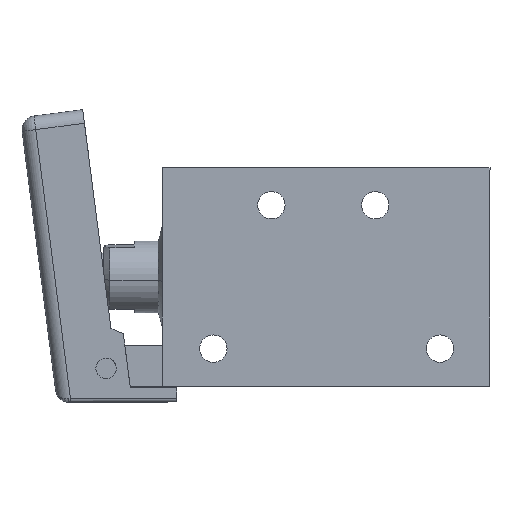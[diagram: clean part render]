
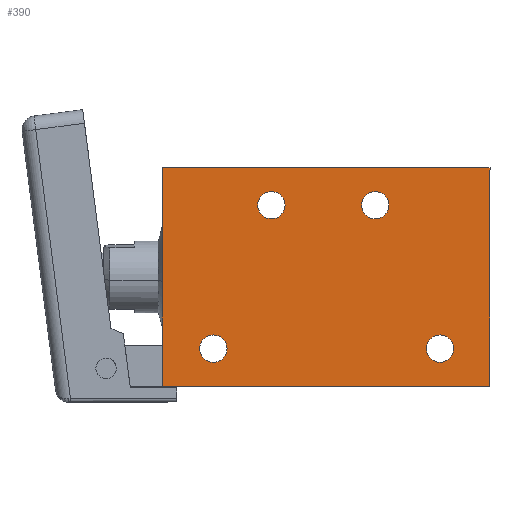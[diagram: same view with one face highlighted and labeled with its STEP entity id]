
A CAD part, left-side view. The second image highlights one B-rep face of the part: STEP entity #390.
In plain terms, the highlighted planar face has unit normal (-1, 0, 0).
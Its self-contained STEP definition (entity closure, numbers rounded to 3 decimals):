
#7 = CARTESIAN_POINT ( 'NONE',  ( 34.832, 34.209, 53.147 ) ) ;
#144 = ORIENTED_EDGE ( 'NONE', *, *, #2759, .F. ) ;
#145 = DIRECTION ( 'NONE',  ( 0., -1., 0. ) ) ;
#153 = VERTEX_POINT ( 'NONE', #2822 ) ;
#178 = AXIS2_PLACEMENT_3D ( 'NONE', #343, #285, #2251 ) ;
#201 = ORIENTED_EDGE ( 'NONE', *, *, #1446, .F. ) ;
#240 = ORIENTED_EDGE ( 'NONE', *, *, #1403, .F. ) ;
#244 = FACE_BOUND ( 'NONE', #1504, .T. ) ;
#284 = CARTESIAN_POINT ( 'NONE',  ( 34.832, 36.209, 53.147 ) ) ;
#285 = DIRECTION ( 'NONE',  ( -1., 0., 0. ) ) ;
#287 = VECTOR ( 'NONE', #145, 1000. ) ;
#292 = LINE ( 'NONE', #3564, #1120 ) ;
#318 = DIRECTION ( 'NONE',  ( -1., 0., 0. ) ) ;
#343 = CARTESIAN_POINT ( 'NONE',  ( 34.832, 26.709, 32.147 ) ) ;
#349 = EDGE_CURVE ( 'NONE', #1329, #2317, #1164, .T. ) ;
#387 = CIRCLE ( 'NONE', #2478, 2. ) ;
#390 = ADVANCED_FACE ( 'NONE', ( #244, #981, #1066, #3189, #2404 ), #738, .F. ) ;
#397 = CARTESIAN_POINT ( 'NONE',  ( 34.832, 49.409, 53.147 ) ) ;
#421 = AXIS2_PLACEMENT_3D ( 'NONE', #2279, #2517, #3241 ) ;
#434 = DIRECTION ( 'NONE',  ( 0., -1., 0. ) ) ;
#471 = LINE ( 'NONE', #1354, #1216 ) ;
#483 = CARTESIAN_POINT ( 'NONE',  ( 34.832, 38.209, 53.147 ) ) ;
#493 = CIRCLE ( 'NONE', #2700, 2. ) ;
#510 = EDGE_CURVE ( 'NONE', #1122, #976, #292, .T. ) ;
#637 = EDGE_CURVE ( 'NONE', #3046, #2405, #2876, .T. ) ;
#738 = PLANE ( 'NONE',  #421 ) ;
#744 = CARTESIAN_POINT ( 'NONE',  ( 34.832, 26.709, 32.147 ) ) ;
#772 = DIRECTION ( 'NONE',  ( -1., 0., 0. ) ) ;
#810 = CARTESIAN_POINT ( 'NONE',  ( 34.832, 67.409, 58.647 ) ) ;
#856 = DIRECTION ( 'NONE',  ( 0., 0., 1. ) ) ;
#919 = CARTESIAN_POINT ( 'NONE',  ( 34.832, 67.409, 26.647 ) ) ;
#976 = VERTEX_POINT ( 'NONE', #1828 ) ;
#981 = FACE_BOUND ( 'NONE', #3409, .T. ) ;
#994 = CIRCLE ( 'NONE', #3586, 2. ) ;
#1044 = CIRCLE ( 'NONE', #3266, 2. ) ;
#1055 = DIRECTION ( 'NONE',  ( 0., -1., 0. ) ) ;
#1066 = FACE_BOUND ( 'NONE', #1914, .T. ) ;
#1110 = EDGE_CURVE ( 'NONE', #2256, #1859, #3040, .T. ) ;
#1114 = DIRECTION ( 'NONE',  ( 0., 0., 1. ) ) ;
#1120 = VECTOR ( 'NONE', #3557, 1000. ) ;
#1122 = VERTEX_POINT ( 'NONE', #2951 ) ;
#1153 = EDGE_CURVE ( 'NONE', #2405, #3046, #1406, .T. ) ;
#1164 = CIRCLE ( 'NONE', #2993, 2. ) ;
#1174 = ORIENTED_EDGE ( 'NONE', *, *, #637, .F. ) ;
#1216 = VECTOR ( 'NONE', #1114, 1000. ) ;
#1329 = VERTEX_POINT ( 'NONE', #483 ) ;
#1354 = CARTESIAN_POINT ( 'NONE',  ( 34.832, 19.409, 26.647 ) ) ;
#1403 = EDGE_CURVE ( 'NONE', #2788, #2611, #493, .T. ) ;
#1406 = CIRCLE ( 'NONE', #1986, 2. ) ;
#1446 = EDGE_CURVE ( 'NONE', #2611, #2788, #2077, .T. ) ;
#1460 = CARTESIAN_POINT ( 'NONE',  ( 34.832, 24.709, 32.147 ) ) ;
#1504 = EDGE_LOOP ( 'NONE', ( #240, #201 ) ) ;
#1716 = DIRECTION ( 'NONE',  ( 0., -1., 0. ) ) ;
#1727 = DIRECTION ( 'NONE',  ( -1., 0., 0. ) ) ;
#1732 = CARTESIAN_POINT ( 'NONE',  ( 34.832, 51.409, 53.147 ) ) ;
#1806 = EDGE_LOOP ( 'NONE', ( #3371, #3288 ) ) ;
#1828 = CARTESIAN_POINT ( 'NONE',  ( 34.832, 19.409, 26.647 ) ) ;
#1859 = VERTEX_POINT ( 'NONE', #3476 ) ;
#1914 = EDGE_LOOP ( 'NONE', ( #144, #2958 ) ) ;
#1986 = AXIS2_PLACEMENT_3D ( 'NONE', #744, #772, #1055 ) ;
#2047 = EDGE_CURVE ( 'NONE', #976, #1859, #471, .T. ) ;
#2064 = CARTESIAN_POINT ( 'NONE',  ( 34.832, 57.909, 32.147 ) ) ;
#2073 = DIRECTION ( 'NONE',  ( 0., -1., 0. ) ) ;
#2077 = CIRCLE ( 'NONE', #3087, 2. ) ;
#2079 = DIRECTION ( 'NONE',  ( -1., 0., 0. ) ) ;
#2088 = CARTESIAN_POINT ( 'NONE',  ( 34.832, 36.209, 53.147 ) ) ;
#2173 = EDGE_LOOP ( 'NONE', ( #3280, #3237, #3106, #2835 ) ) ;
#2251 = DIRECTION ( 'NONE',  ( 0., -1., 0. ) ) ;
#2256 = VERTEX_POINT ( 'NONE', #810 ) ;
#2279 = CARTESIAN_POINT ( 'NONE',  ( 34.832, 78.109, 26.647 ) ) ;
#2317 = VERTEX_POINT ( 'NONE', #7 ) ;
#2333 = VECTOR ( 'NONE', #856, 1000. ) ;
#2349 = EDGE_CURVE ( 'NONE', #3370, #153, #994, .T. ) ;
#2404 = FACE_OUTER_BOUND ( 'NONE', #2173, .T. ) ;
#2405 = VERTEX_POINT ( 'NONE', #3408 ) ;
#2422 = LINE ( 'NONE', #919, #2333 ) ;
#2478 = AXIS2_PLACEMENT_3D ( 'NONE', #2088, #2079, #2073 ) ;
#2517 = DIRECTION ( 'NONE',  ( 1., 0., 0. ) ) ;
#2611 = VERTEX_POINT ( 'NONE', #2623 ) ;
#2623 = CARTESIAN_POINT ( 'NONE',  ( 34.832, 61.909, 32.147 ) ) ;
#2696 = CARTESIAN_POINT ( 'NONE',  ( 34.832, 78.109, 58.647 ) ) ;
#2700 = AXIS2_PLACEMENT_3D ( 'NONE', #2942, #2970, #2992 ) ;
#2759 = EDGE_CURVE ( 'NONE', #2317, #1329, #387, .T. ) ;
#2788 = VERTEX_POINT ( 'NONE', #2064 ) ;
#2822 = CARTESIAN_POINT ( 'NONE',  ( 34.832, 53.409, 53.147 ) ) ;
#2835 = ORIENTED_EDGE ( 'NONE', *, *, #1110, .F. ) ;
#2876 = CIRCLE ( 'NONE', #178, 2. ) ;
#2920 = EDGE_CURVE ( 'NONE', #153, #3370, #1044, .T. ) ;
#2942 = CARTESIAN_POINT ( 'NONE',  ( 34.832, 59.909, 32.147 ) ) ;
#2951 = CARTESIAN_POINT ( 'NONE',  ( 34.832, 67.409, 26.647 ) ) ;
#2958 = ORIENTED_EDGE ( 'NONE', *, *, #349, .F. ) ;
#2970 = DIRECTION ( 'NONE',  ( -1., 0., 0. ) ) ;
#2992 = DIRECTION ( 'NONE',  ( 0., -1., 0. ) ) ;
#2993 = AXIS2_PLACEMENT_3D ( 'NONE', #284, #318, #434 ) ;
#3040 = LINE ( 'NONE', #2696, #287 ) ;
#3046 = VERTEX_POINT ( 'NONE', #1460 ) ;
#3061 = CARTESIAN_POINT ( 'NONE',  ( 34.832, 59.909, 32.147 ) ) ;
#3062 = DIRECTION ( 'NONE',  ( -1., 0., 0. ) ) ;
#3075 = DIRECTION ( 'NONE',  ( 0., -1., 0. ) ) ;
#3087 = AXIS2_PLACEMENT_3D ( 'NONE', #3061, #3062, #3075 ) ;
#3106 = ORIENTED_EDGE ( 'NONE', *, *, #2047, .T. ) ;
#3189 = FACE_BOUND ( 'NONE', #1806, .T. ) ;
#3222 = EDGE_CURVE ( 'NONE', #1122, #2256, #2422, .T. ) ;
#3237 = ORIENTED_EDGE ( 'NONE', *, *, #510, .T. ) ;
#3241 = DIRECTION ( 'NONE',  ( 0., 1., 0. ) ) ;
#3266 = AXIS2_PLACEMENT_3D ( 'NONE', #1732, #1727, #1716 ) ;
#3280 = ORIENTED_EDGE ( 'NONE', *, *, #3222, .F. ) ;
#3288 = ORIENTED_EDGE ( 'NONE', *, *, #2920, .F. ) ;
#3370 = VERTEX_POINT ( 'NONE', #397 ) ;
#3371 = ORIENTED_EDGE ( 'NONE', *, *, #2349, .F. ) ;
#3408 = CARTESIAN_POINT ( 'NONE',  ( 34.832, 28.709, 32.147 ) ) ;
#3409 = EDGE_LOOP ( 'NONE', ( #1174, #3446 ) ) ;
#3446 = ORIENTED_EDGE ( 'NONE', *, *, #1153, .F. ) ;
#3476 = CARTESIAN_POINT ( 'NONE',  ( 34.832, 19.409, 58.647 ) ) ;
#3479 = DIRECTION ( 'NONE',  ( 0., -1., 0. ) ) ;
#3485 = DIRECTION ( 'NONE',  ( -1., 0., 0. ) ) ;
#3495 = CARTESIAN_POINT ( 'NONE',  ( 34.832, 51.409, 53.147 ) ) ;
#3557 = DIRECTION ( 'NONE',  ( 0., -1., 0. ) ) ;
#3564 = CARTESIAN_POINT ( 'NONE',  ( 34.832, 78.109, 26.647 ) ) ;
#3586 = AXIS2_PLACEMENT_3D ( 'NONE', #3495, #3485, #3479 ) ;
